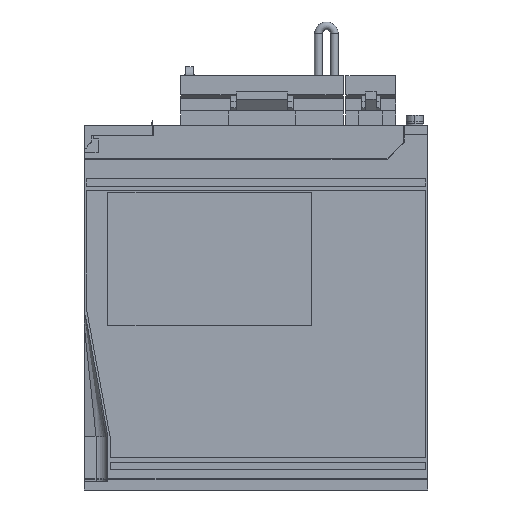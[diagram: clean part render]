
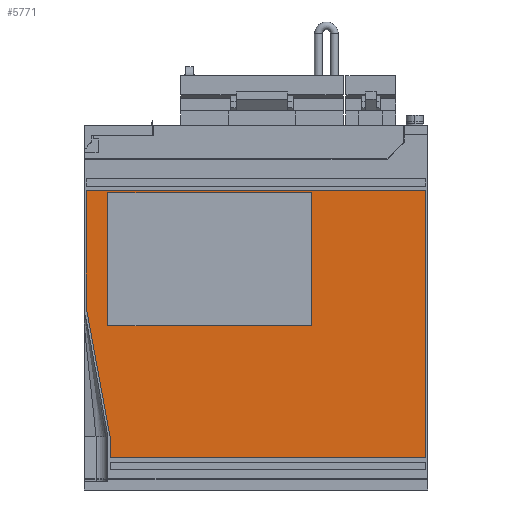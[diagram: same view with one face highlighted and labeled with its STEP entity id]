
A CAD part, left-side view. The second image highlights one B-rep face of the part: STEP entity #5771.
In plain terms, the highlighted planar face has unit normal (-1, 0, 0).
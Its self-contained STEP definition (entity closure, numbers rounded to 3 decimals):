
#5671 = VERTEX_POINT ( 'NONE', #25134 ) ;
#5673 = EDGE_CURVE ( 'NONE', #5674, #5671, #25128, .T. ) ;
#5674 = VERTEX_POINT ( 'NONE', #25123 ) ;
#5708 = EDGE_CURVE ( 'NONE', #5709, #5725, #25278, .T. ) ;
#5709 = VERTEX_POINT ( 'NONE', #25274 ) ;
#5716 = EDGE_CURVE ( 'NONE', #5743, #5735, #25249, .T. ) ;
#5724 = EDGE_CURVE ( 'NONE', #5725, #5743, #25347, .T. ) ;
#5725 = VERTEX_POINT ( 'NONE', #25343 ) ;
#5734 = EDGE_CURVE ( 'NONE', #5735, #5674, #25312, .T. ) ;
#5735 = VERTEX_POINT ( 'NONE', #25304 ) ;
#5743 = VERTEX_POINT ( 'NONE', #25410 ) ;
#5757 = ORIENTED_EDGE ( 'NONE', *, *, #5758, .F. ) ;
#5758 = EDGE_CURVE ( 'NONE', #5776, #5782, #25366, .T. ) ;
#5759 = EDGE_LOOP ( 'NONE', ( #5760, #5761, #5762, #5763, #5764, #5765 ) ) ;
#5760 = ORIENTED_EDGE ( 'NONE', *, *, #5673, .T. ) ;
#5761 = ORIENTED_EDGE ( 'NONE', *, *, #5769, .T. ) ;
#5762 = ORIENTED_EDGE ( 'NONE', *, *, #5708, .T. ) ;
#5763 = ORIENTED_EDGE ( 'NONE', *, *, #5724, .T. ) ;
#5764 = ORIENTED_EDGE ( 'NONE', *, *, #5716, .T. ) ;
#5765 = ORIENTED_EDGE ( 'NONE', *, *, #5734, .T. ) ;
#5769 = EDGE_CURVE ( 'NONE', #5671, #5709, #25481, .T. ) ;
#5771 = ADVANCED_FACE ( 'NONE', ( #25473, #25472 ), #25470, .T. ) ;
#5772 = EDGE_LOOP ( 'NONE', ( #5773, #5777, #5780, #5757 ) ) ;
#5773 = ORIENTED_EDGE ( 'NONE', *, *, #5774, .F. ) ;
#5774 = EDGE_CURVE ( 'NONE', #5775, #5776, #25459, .T. ) ;
#5775 = VERTEX_POINT ( 'NONE', #25452 ) ;
#5776 = VERTEX_POINT ( 'NONE', #25451 ) ;
#5777 = ORIENTED_EDGE ( 'NONE', *, *, #5778, .F. ) ;
#5778 = EDGE_CURVE ( 'NONE', #5779, #5775, #25447, .T. ) ;
#5779 = VERTEX_POINT ( 'NONE', #25440 ) ;
#5780 = ORIENTED_EDGE ( 'NONE', *, *, #5781, .F. ) ;
#5781 = EDGE_CURVE ( 'NONE', #5782, #5779, #25435, .T. ) ;
#5782 = VERTEX_POINT ( 'NONE', #25429 ) ;
#25123 = CARTESIAN_POINT ( 'NONE',  ( -4.7, -154., 139.5 ) ) ;
#25124 = DIRECTION ( 'NONE',  ( 0., 1., 0. ) ) ;
#25125 = VECTOR ( 'NONE', #25124, 1000. ) ;
#25126 = CARTESIAN_POINT ( 'NONE',  ( -4.7, 4., 139.5 ) ) ;
#25128 = LINE ( 'NONE', #25126, #25125 ) ;
#25134 = CARTESIAN_POINT ( 'NONE',  ( -4.7, 4., 139.5 ) ) ;
#25243 = DIRECTION ( 'NONE',  ( 0., -1., 0. ) ) ;
#25245 = VECTOR ( 'NONE', #25243, 1000. ) ;
#25247 = CARTESIAN_POINT ( 'NONE',  ( -4.7, -7., 15. ) ) ;
#25249 = LINE ( 'NONE', #25247, #25245 ) ;
#25274 = CARTESIAN_POINT ( 'NONE',  ( -4.7, 4., 84.683 ) ) ;
#25275 = DIRECTION ( 'NONE',  ( 0., -0.181, -0.983 ) ) ;
#25276 = VECTOR ( 'NONE', #25275, 1000. ) ;
#25277 = CARTESIAN_POINT ( 'NONE',  ( -4.7, 4., 84.683 ) ) ;
#25278 = LINE ( 'NONE', #25277, #25276 ) ;
#25304 = CARTESIAN_POINT ( 'NONE',  ( -4.7, -154., 15. ) ) ;
#25306 = DIRECTION ( 'NONE',  ( 0., 0., 1. ) ) ;
#25308 = VECTOR ( 'NONE', #25306, 1000. ) ;
#25310 = CARTESIAN_POINT ( 'NONE',  ( -4.7, -154., 15. ) ) ;
#25312 = LINE ( 'NONE', #25310, #25308 ) ;
#25343 = CARTESIAN_POINT ( 'NONE',  ( -4.7, -7., 24.891 ) ) ;
#25344 = DIRECTION ( 'NONE',  ( 0., 0., -1. ) ) ;
#25345 = VECTOR ( 'NONE', #25344, 1000. ) ;
#25346 = CARTESIAN_POINT ( 'NONE',  ( -4.7, -7., 24.891 ) ) ;
#25347 = LINE ( 'NONE', #25346, #25345 ) ;
#25360 = DIRECTION ( 'NONE',  ( 0., 0., 1. ) ) ;
#25362 = VECTOR ( 'NONE', #25360, 1000. ) ;
#25364 = CARTESIAN_POINT ( 'NONE',  ( -4.7, -101., 139.5 ) ) ;
#25366 = LINE ( 'NONE', #25364, #25362 ) ;
#25410 = CARTESIAN_POINT ( 'NONE',  ( -4.7, -7., 15. ) ) ;
#25429 = CARTESIAN_POINT ( 'NONE',  ( -4.7, -101., 138.5 ) ) ;
#25432 = DIRECTION ( 'NONE',  ( 0., 1., 0. ) ) ;
#25433 = VECTOR ( 'NONE', #25432, 1000. ) ;
#25434 = CARTESIAN_POINT ( 'NONE',  ( -4.7, -154., 138.5 ) ) ;
#25435 = LINE ( 'NONE', #25434, #25433 ) ;
#25440 = CARTESIAN_POINT ( 'NONE',  ( -4.7, -6., 138.5 ) ) ;
#25442 = DIRECTION ( 'NONE',  ( 0., 0., -1. ) ) ;
#25444 = VECTOR ( 'NONE', #25442, 1000. ) ;
#25445 = CARTESIAN_POINT ( 'NONE',  ( -4.7, -6., 139.5 ) ) ;
#25447 = LINE ( 'NONE', #25445, #25444 ) ;
#25451 = CARTESIAN_POINT ( 'NONE',  ( -4.7, -101., 76.5 ) ) ;
#25452 = CARTESIAN_POINT ( 'NONE',  ( -4.7, -6., 76.5 ) ) ;
#25454 = DIRECTION ( 'NONE',  ( 0., -1., 0. ) ) ;
#25455 = VECTOR ( 'NONE', #25454, 1000. ) ;
#25458 = CARTESIAN_POINT ( 'NONE',  ( -4.7, -154., 76.5 ) ) ;
#25459 = LINE ( 'NONE', #25458, #25455 ) ;
#25462 = DIRECTION ( 'NONE',  ( 0., -1., 0. ) ) ;
#25464 = DIRECTION ( 'NONE',  ( -1., 0., 0. ) ) ;
#25466 = CARTESIAN_POINT ( 'NONE',  ( -4.7, -154., 139.5 ) ) ;
#25468 = AXIS2_PLACEMENT_3D ( 'NONE', #25466, #25464, #25462 ) ;
#25470 = PLANE ( 'NONE',  #25468 ) ;
#25472 = FACE_OUTER_BOUND ( 'NONE', #5759, .T. ) ;
#25473 = FACE_BOUND ( 'NONE', #5772, .T. ) ;
#25476 = DIRECTION ( 'NONE',  ( 0., 0., -1. ) ) ;
#25478 = VECTOR ( 'NONE', #25476, 1000. ) ;
#25480 = CARTESIAN_POINT ( 'NONE',  ( -4.7, 4., 84.683 ) ) ;
#25481 = LINE ( 'NONE', #25480, #25478 ) ;
